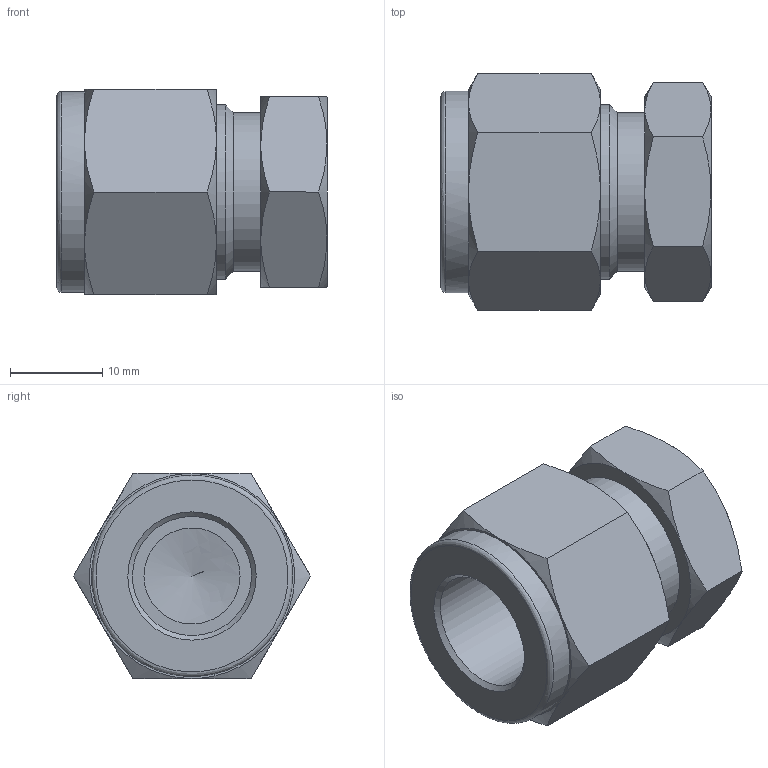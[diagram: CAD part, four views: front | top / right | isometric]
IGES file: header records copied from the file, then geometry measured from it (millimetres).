
Global section: file name: SC-8; native system: Autodesk Inventor 2016; preprocessor: unknown; author: DESIGNPC2; date: 20160312.132404; units: millimetre
Bounding box: 29.3 x 25.66 x 22.23 mm (x, y, z)
Volume: 7894 mm3; surface area: 4060.8 mm2
Topology: 1 solids, 1 shells, 42 faces, 103 edges, 68 vertices
Faces by surface type: bspline 42
